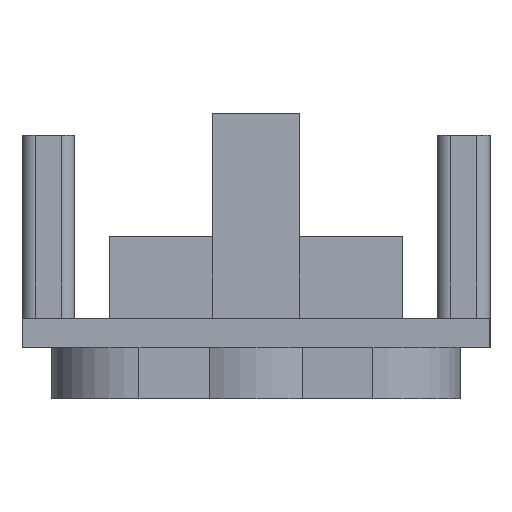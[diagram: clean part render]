
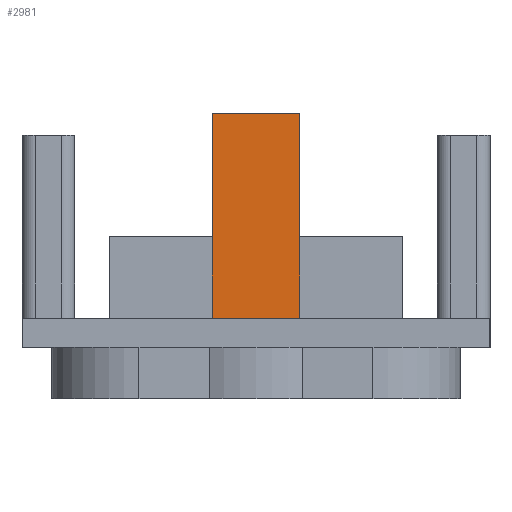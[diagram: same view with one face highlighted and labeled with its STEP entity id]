
A CAD part, left-side view. The second image highlights one B-rep face of the part: STEP entity #2981.
In plain terms, the highlighted planar face has unit normal (-1, 0, 0).
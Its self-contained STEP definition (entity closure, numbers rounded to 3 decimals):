
#273=FACE_OUTER_BOUND('',#436,.T.);
#436=EDGE_LOOP('',(#2625,#2626,#2627,#2628));
#736=LINE('',#4710,#1090);
#774=LINE('',#4813,#1128);
#775=LINE('',#4816,#1129);
#776=LINE('',#4817,#1130);
#1090=VECTOR('',#3822,1.);
#1128=VECTOR('',#3946,1.);
#1129=VECTOR('',#3949,1.);
#1130=VECTOR('',#3950,1.);
#1400=VERTEX_POINT('',#4706);
#1402=VERTEX_POINT('',#4709);
#1424=VERTEX_POINT('',#4811);
#1425=VERTEX_POINT('',#4815);
#1785=EDGE_CURVE('',#1402,#1400,#736,.T.);
#1834=EDGE_CURVE('',#1424,#1400,#774,.T.);
#1835=EDGE_CURVE('',#1425,#1424,#775,.T.);
#1836=EDGE_CURVE('',#1425,#1402,#776,.T.);
#2625=ORIENTED_EDGE('',*,*,#1834,.F.);
#2626=ORIENTED_EDGE('',*,*,#1835,.F.);
#2627=ORIENTED_EDGE('',*,*,#1836,.T.);
#2628=ORIENTED_EDGE('',*,*,#1785,.T.);
#2836=PLANE('',#3213);
#2981=ADVANCED_FACE('',(#273),#2836,.F.);
#3213=AXIS2_PLACEMENT_3D('',#4814,#3947,#3948);
#3822=DIRECTION('',(0.,-1.,0.));
#3946=DIRECTION('',(0.,0.,-1.));
#3947=DIRECTION('center_axis',(1.,0.,0.));
#3948=DIRECTION('ref_axis',(0.,0.,-1.));
#3949=DIRECTION('',(0.,-1.,0.));
#3950=DIRECTION('',(0.,0.,-1.));
#4706=CARTESIAN_POINT('',(-10.9,-48.5,-9.9));
#4709=CARTESIAN_POINT('',(-10.9,-45.5,-9.9));
#4710=CARTESIAN_POINT('',(-10.9,-51.,-9.9));
#4811=CARTESIAN_POINT('',(-10.9,-48.5,-2.9));
#4813=CARTESIAN_POINT('',(-10.9,-48.5,-2.95));
#4814=CARTESIAN_POINT('Origin',(-10.9,-47.,-6.955));
#4815=CARTESIAN_POINT('',(-10.9,-45.5,-2.9));
#4816=CARTESIAN_POINT('',(-10.9,-47.,-2.9));
#4817=CARTESIAN_POINT('',(-10.9,-45.5,-2.95));
